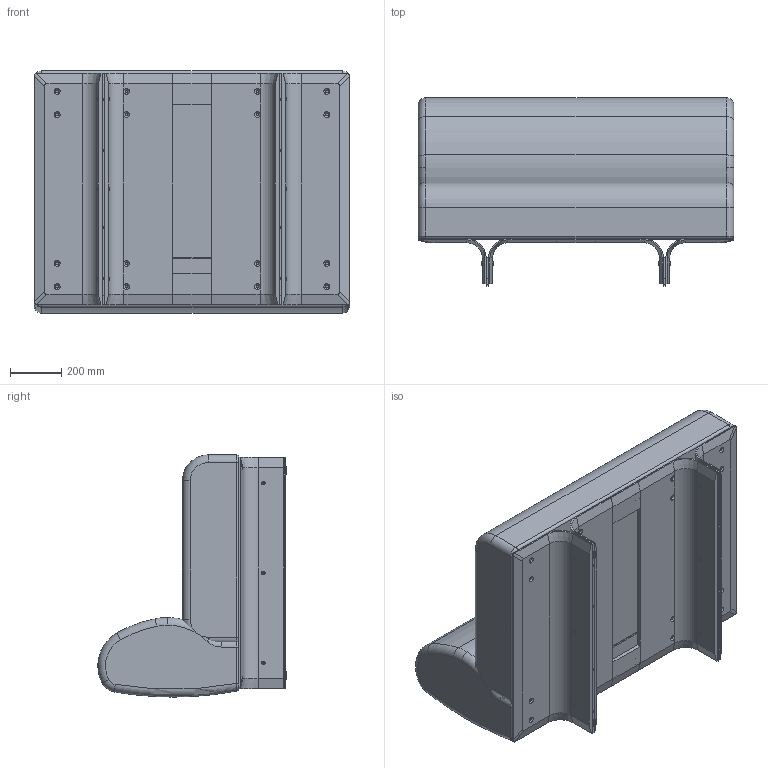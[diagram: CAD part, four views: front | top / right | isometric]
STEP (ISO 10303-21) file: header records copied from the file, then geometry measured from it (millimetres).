
FILE_DESCRIPTION (( 'STEP AP214' ), '1' );
FILE_NAME ('1230 central.STEP', '2024-06-05T12:46:11', ( '' ), ( '' ), 'SwSTEP 2.0', 'SolidWorks 2023', '' );
FILE_SCHEMA (( 'AUTOMOTIVE_DESIGN' ));
Length unit declared in the file: millimetre
Products named in the file (11): boccola_borchia M6; BASE_COMPONENTI_SEMIPONTE TERMINALE; BASE_COMPONENTI_SEMIPONTE CENTRALE; 20PT8X30N scivolo IPEA; 1230 central; BASE_DISTANZIALE_1cm; SEDILE_1230 CENTRALE GOMMA VERIFICARE; PIEDINO_L900; BASE_FASCIA_COLLEGAMENTO_x_MODULARE_1230 CENTRALE; STAMI_SOFA_PLUS_BASE_ASSIEME_1230 CENTRALE o POUFF; SCHIENALE_GOMMA_1230 centrale
Assembly tree (29 placements, depth 3):
  1230 central
    STAMI_SOFA_PLUS_BASE_ASSIEME_1230 CENTRALE o POUFF
      BASE_DISTANZIALE_1cm  x2
      PIEDINO_L900  x2
      20PT8X30N scivolo IPEA  x4
      BASE_COMPONENTI_SEMIPONTE CENTRALE  x2
      BASE_COMPONENTI_SEMIPONTE TERMINALE  x2
      BASE_FASCIA_COLLEGAMENTO_x_MODULARE_1230 CENTRALE  x2
      boccola_borchia M6  x12
    SEDILE_1230 CENTRALE GOMMA VERIFICARE
    SCHIENALE_GOMMA_1230 centrale
Bounding box: 1230 x 733.94 x 943.25 mm (x, y, z)
Volume: 388429145.6 mm3; surface area: 8172585 mm2
Topology: 28 solids, 28 shells, 741 faces, 1751 edges, 1054 vertices
Faces by surface type: cylinder 325, plane 254, cone 88, torus 56, sphere 16, bspline 2
Entity records: 9309 total; most frequent: CARTESIAN_POINT 1780, DIRECTION 1667, ORIENTED_EDGE 1378, EDGE_CURVE 689, AXIS2_PLACEMENT_3D 668, VERTEX_POINT 422, EDGE_LOOP 353, CIRCLE 346
